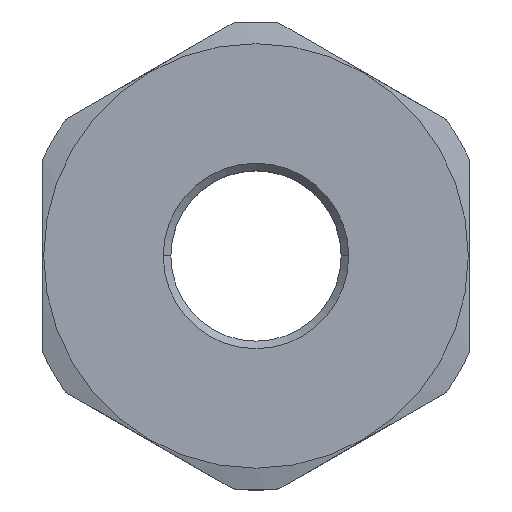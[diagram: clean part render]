
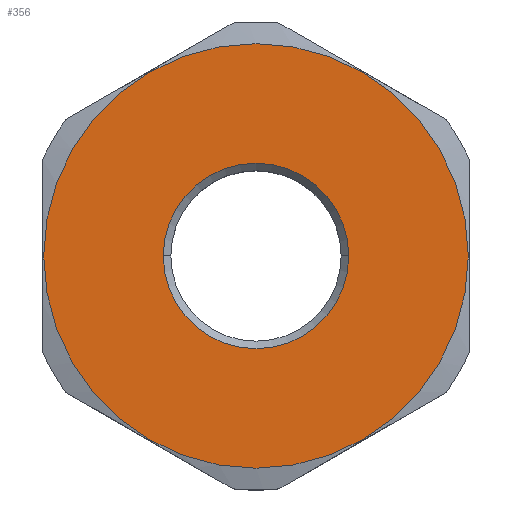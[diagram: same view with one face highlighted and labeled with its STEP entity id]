
A CAD part, top view. The second image highlights one B-rep face of the part: STEP entity #356.
In plain terms, the highlighted planar face has unit normal (0, 0, 1).
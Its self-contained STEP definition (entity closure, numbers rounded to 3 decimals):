
#108 = EDGE_CURVE ( 'NONE', #109, #124, #890, .T. ) ;
#109 = VERTEX_POINT ( 'NONE', #877 ) ;
#124 = VERTEX_POINT ( 'NONE', #872 ) ;
#218 = VERTEX_POINT ( 'NONE', #1892 ) ;
#245 = EDGE_CURVE ( 'NONE', #124, #109, #1830, .T. ) ;
#324 = ORIENTED_EDGE ( 'NONE', *, *, #245, .T. ) ;
#326 = EDGE_LOOP ( 'NONE', ( #324, #377 ) ) ;
#327 = ORIENTED_EDGE ( 'NONE', *, *, #2218, .F. ) ;
#332 = ORIENTED_EDGE ( 'NONE', *, *, #334, .F. ) ;
#334 = EDGE_CURVE ( 'NONE', #2216, #218, #2179, .T. ) ;
#356 = ADVANCED_FACE ( 'NONE', ( #2140, #2145 ), #2144, .F. ) ;
#357 = EDGE_LOOP ( 'NONE', ( #332, #327 ) ) ;
#377 = ORIENTED_EDGE ( 'NONE', *, *, #108, .T. ) ;
#872 = CARTESIAN_POINT ( 'NONE',  ( -22.9, 0., 0. ) ) ;
#877 = CARTESIAN_POINT ( 'NONE',  ( 22.9, 0., 0. ) ) ;
#878 = DIRECTION ( 'NONE',  ( 1., 0., 0. ) ) ;
#879 = DIRECTION ( 'NONE',  ( 0., 0., 1. ) ) ;
#880 = CARTESIAN_POINT ( 'NONE',  ( 0., 0., 0. ) ) ;
#881 = AXIS2_PLACEMENT_3D ( 'NONE', #880, #879, #878 ) ;
#890 = CIRCLE ( 'NONE', #881, 22.9 ) ;
#1618 = CARTESIAN_POINT ( 'NONE',  ( 10., 0., 0. ) ) ;
#1671 = DIRECTION ( 'NONE',  ( 1., 0., 0. ) ) ;
#1672 = DIRECTION ( 'NONE',  ( 0., 0., 1. ) ) ;
#1673 = CARTESIAN_POINT ( 'NONE',  ( 0., 0., 0. ) ) ;
#1674 = AXIS2_PLACEMENT_3D ( 'NONE', #1673, #1672, #1671 ) ;
#1679 = CIRCLE ( 'NONE', #1674, 10. ) ;
#1827 = DIRECTION ( 'NONE',  ( 0., 0., 1. ) ) ;
#1828 = CARTESIAN_POINT ( 'NONE',  ( 0., 0., 0. ) ) ;
#1829 = AXIS2_PLACEMENT_3D ( 'NONE', #1828, #1827, #1838 ) ;
#1830 = CIRCLE ( 'NONE', #1829, 22.9 ) ;
#1838 = DIRECTION ( 'NONE',  ( 1., 0., 0. ) ) ;
#1892 = CARTESIAN_POINT ( 'NONE',  ( -10., 0., 0. ) ) ;
#2139 = DIRECTION ( 'NONE',  ( -1., 0., 0. ) ) ;
#2140 = FACE_BOUND ( 'NONE', #357, .T. ) ;
#2144 = PLANE ( 'NONE',  #2162 ) ;
#2145 = FACE_OUTER_BOUND ( 'NONE', #326, .T. ) ;
#2156 = DIRECTION ( 'NONE',  ( 1., 0., 0. ) ) ;
#2157 = DIRECTION ( 'NONE',  ( 0., 0., 1. ) ) ;
#2160 = DIRECTION ( 'NONE',  ( 0., 0., -1. ) ) ;
#2161 = CARTESIAN_POINT ( 'NONE',  ( 0., 0., 0. ) ) ;
#2162 = AXIS2_PLACEMENT_3D ( 'NONE', #2161, #2160, #2139 ) ;
#2177 = CARTESIAN_POINT ( 'NONE',  ( 0., 0., 0. ) ) ;
#2178 = AXIS2_PLACEMENT_3D ( 'NONE', #2177, #2157, #2156 ) ;
#2179 = CIRCLE ( 'NONE', #2178, 10. ) ;
#2216 = VERTEX_POINT ( 'NONE', #1618 ) ;
#2218 = EDGE_CURVE ( 'NONE', #218, #2216, #1679, .T. ) ;
